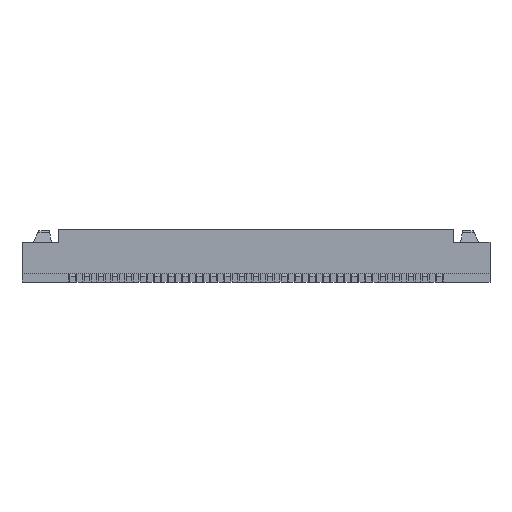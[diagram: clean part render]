
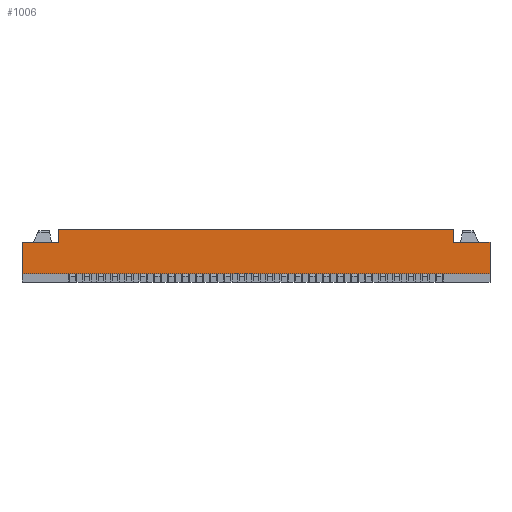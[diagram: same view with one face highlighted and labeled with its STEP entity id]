
A CAD part, front view. The second image highlights one B-rep face of the part: STEP entity #1006.
In plain terms, the highlighted planar face has unit normal (0, -1, 0).
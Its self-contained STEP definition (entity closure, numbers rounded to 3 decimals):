
#399=CARTESIAN_POINT('Vertex',(-7.,-2.4,1.42)) ;
#402=CARTESIAN_POINT('Line Origine',(-7.,-2.4,1.635)) ;
#406=CARTESIAN_POINT('Vertex',(-7.,-2.4,1.85)) ;
#944=CARTESIAN_POINT('Axis2P3D Location',(0.,-2.4,0.3)) ;
#949=CARTESIAN_POINT('Line Origine',(-7.65,-2.4,1.42)) ;
#953=CARTESIAN_POINT('Vertex',(-8.3,-2.4,1.42)) ;
#956=CARTESIAN_POINT('Line Origine',(-8.3,-2.4,0.86)) ;
#960=CARTESIAN_POINT('Vertex',(-8.3,-2.4,0.3)) ;
#963=CARTESIAN_POINT('Line Origine',(0.,-2.4,0.3)) ;
#967=CARTESIAN_POINT('Vertex',(8.3,-2.4,0.3)) ;
#970=CARTESIAN_POINT('Line Origine',(8.3,-2.4,0.86)) ;
#974=CARTESIAN_POINT('Vertex',(8.3,-2.4,1.42)) ;
#977=CARTESIAN_POINT('Line Origine',(7.65,-2.4,1.42)) ;
#981=CARTESIAN_POINT('Vertex',(7.,-2.4,1.42)) ;
#984=CARTESIAN_POINT('Line Origine',(7.,-2.4,1.635)) ;
#988=CARTESIAN_POINT('Vertex',(7.,-2.4,1.85)) ;
#991=CARTESIAN_POINT('Line Origine',(0.,-2.4,1.85)) ;
#403=DIRECTION('Vector Direction',(0.,0.,-1.)) ;
#945=DIRECTION('Axis2P3D Direction',(0.,1.,0.)) ;
#946=DIRECTION('Axis2P3D XDirection',(0.,0.,1.)) ;
#950=DIRECTION('Vector Direction',(1.,0.,0.)) ;
#957=DIRECTION('Vector Direction',(0.,0.,1.)) ;
#964=DIRECTION('Vector Direction',(1.,0.,0.)) ;
#971=DIRECTION('Vector Direction',(0.,0.,1.)) ;
#978=DIRECTION('Vector Direction',(-1.,0.,0.)) ;
#985=DIRECTION('Vector Direction',(0.,0.,-1.)) ;
#992=DIRECTION('Vector Direction',(1.,0.,0.)) ;
#947=AXIS2_PLACEMENT_3D('Plane Axis2P3D',#944,#945,#946) ;
#997=ORIENTED_EDGE('',*,*,#408,.T.) ;
#998=ORIENTED_EDGE('',*,*,#955,.F.) ;
#999=ORIENTED_EDGE('',*,*,#962,.T.) ;
#1000=ORIENTED_EDGE('',*,*,#969,.T.) ;
#1001=ORIENTED_EDGE('',*,*,#976,.F.) ;
#1002=ORIENTED_EDGE('',*,*,#983,.T.) ;
#1003=ORIENTED_EDGE('',*,*,#990,.F.) ;
#1004=ORIENTED_EDGE('',*,*,#995,.F.) ;
#404=VECTOR('Line Direction',#403,1.) ;
#951=VECTOR('Line Direction',#950,1.) ;
#958=VECTOR('Line Direction',#957,1.) ;
#965=VECTOR('Line Direction',#964,1.) ;
#972=VECTOR('Line Direction',#971,1.) ;
#979=VECTOR('Line Direction',#978,1.) ;
#986=VECTOR('Line Direction',#985,1.) ;
#993=VECTOR('Line Direction',#992,1.) ;
#1006=ADVANCED_FACE('\X2\96F64EF651E04F554F53\X0\',(#1005),#948,.F.) ;
#408=EDGE_CURVE('',#407,#400,#405,.T.) ;
#955=EDGE_CURVE('',#954,#400,#952,.T.) ;
#962=EDGE_CURVE('',#954,#961,#959,.F.) ;
#969=EDGE_CURVE('',#961,#968,#966,.T.) ;
#976=EDGE_CURVE('',#975,#968,#973,.F.) ;
#983=EDGE_CURVE('',#975,#982,#980,.T.) ;
#990=EDGE_CURVE('',#989,#982,#987,.T.) ;
#995=EDGE_CURVE('',#407,#989,#994,.T.) ;
#996=EDGE_LOOP('',(#997,#998,#999,#1000,#1001,#1002,#1003,#1004)) ;
#1005=FACE_OUTER_BOUND('',#996,.T.) ;
#405=LINE('Line',#402,#404) ;
#952=LINE('Line',#949,#951) ;
#959=LINE('Line',#956,#958) ;
#966=LINE('Line',#963,#965) ;
#973=LINE('Line',#970,#972) ;
#980=LINE('Line',#977,#979) ;
#987=LINE('Line',#984,#986) ;
#994=LINE('Line',#991,#993) ;
#948=PLANE('Plane',#947) ;
#400=VERTEX_POINT('',#399) ;
#407=VERTEX_POINT('',#406) ;
#954=VERTEX_POINT('',#953) ;
#961=VERTEX_POINT('',#960) ;
#968=VERTEX_POINT('',#967) ;
#975=VERTEX_POINT('',#974) ;
#982=VERTEX_POINT('',#981) ;
#989=VERTEX_POINT('',#988) ;
